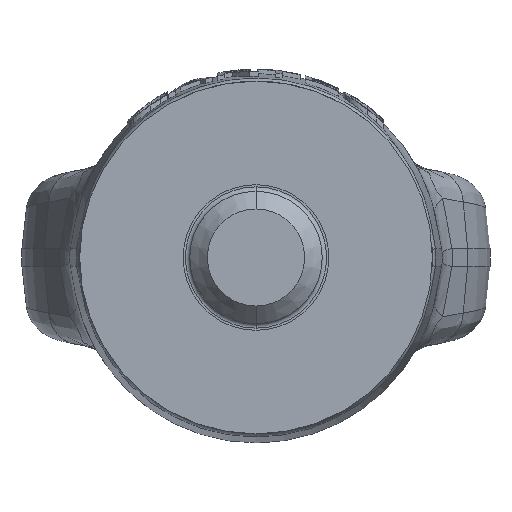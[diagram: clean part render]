
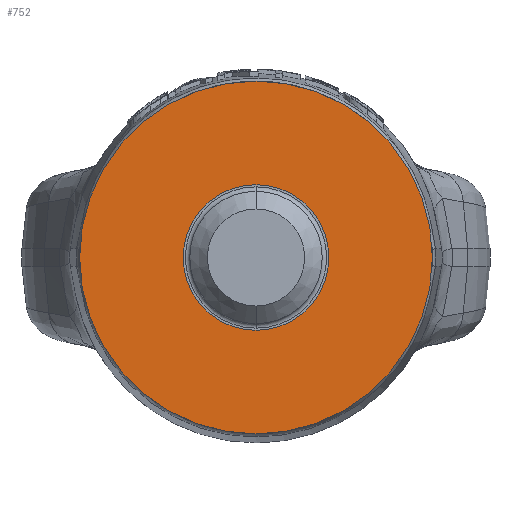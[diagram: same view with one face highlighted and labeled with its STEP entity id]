
A CAD part, front view. The second image highlights one B-rep face of the part: STEP entity #752.
In plain terms, the highlighted planar face has unit normal (0, -1, 0).
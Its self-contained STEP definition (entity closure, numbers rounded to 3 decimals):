
#752=ADVANCED_FACE('',(#1497,#1498),#1499,.F.);
#1497=FACE_OUTER_BOUND('',#7849,.T.);
#1498=FACE_BOUND('',#7850,.T.);
#1499=PLANE('',#7851);
#7849=EDGE_LOOP('',(#9638,#9639));
#7850=EDGE_LOOP('',(#9640,#9641));
#7851=AXIS2_PLACEMENT_3D('',#9642,#9643,#9644);
#9638=ORIENTED_EDGE('',*,*,#10494,.T.);
#9639=ORIENTED_EDGE('',*,*,#10484,.T.);
#9640=ORIENTED_EDGE('',*,*,#10487,.T.);
#9641=ORIENTED_EDGE('',*,*,#10492,.T.);
#9642=CARTESIAN_POINT('',(0.,-73.0,0.0));
#9643=DIRECTION('',(0.0,1.0,0.0));
#9644=DIRECTION('',(1.0,0.0,-0.0));
#10484=EDGE_CURVE('',#11721,#11725,#11727,.T.);
#10487=EDGE_CURVE('',#11732,#11729,#11733,.T.);
#10492=EDGE_CURVE('',#11729,#11732,#11739,.T.);
#10494=EDGE_CURVE('',#11725,#11721,#11741,.T.);
#11721=VERTEX_POINT('',#20173);
#11725=VERTEX_POINT('',#20178);
#11727=CIRCLE('',#20181,39.958);
#11729=VERTEX_POINT('',#20183);
#11732=VERTEX_POINT('',#20187);
#11733=CIRCLE('',#20188,16.5);
#11739=CIRCLE('',#20195,16.5);
#11741=CIRCLE('',#20197,39.958);
#20173=CARTESIAN_POINT('',(-39.958,-73.0,0.));
#20178=CARTESIAN_POINT('',(39.958,-73.0,0.));
#20181=AXIS2_PLACEMENT_3D('',#20809,#20810,#20811);
#20183=CARTESIAN_POINT('',(-16.5,-73.0,0.));
#20187=CARTESIAN_POINT('',(16.5,-73.0,0.));
#20188=AXIS2_PLACEMENT_3D('',#20813,#20814,#20815);
#20195=AXIS2_PLACEMENT_3D('',#20823,#20824,#20825);
#20197=AXIS2_PLACEMENT_3D('',#20826,#20827,#20828);
#20809=CARTESIAN_POINT('',(0.0,-73.0,0.0));
#20810=DIRECTION('',(0.0,-1.0,-0.0));
#20811=DIRECTION('',(-1.0,0.0,0.));
#20813=CARTESIAN_POINT('',(0.0,-73.0,0.0));
#20814=DIRECTION('',(0.0,1.0,0.0));
#20815=DIRECTION('',(-1.0,0.0,0.));
#20823=CARTESIAN_POINT('',(0.0,-73.0,0.0));
#20824=DIRECTION('',(0.0,1.0,0.0));
#20825=DIRECTION('',(-1.0,0.0,0.));
#20826=CARTESIAN_POINT('',(0.0,-73.0,0.0));
#20827=DIRECTION('',(0.0,-1.0,-0.0));
#20828=DIRECTION('',(-1.0,0.0,0.));
